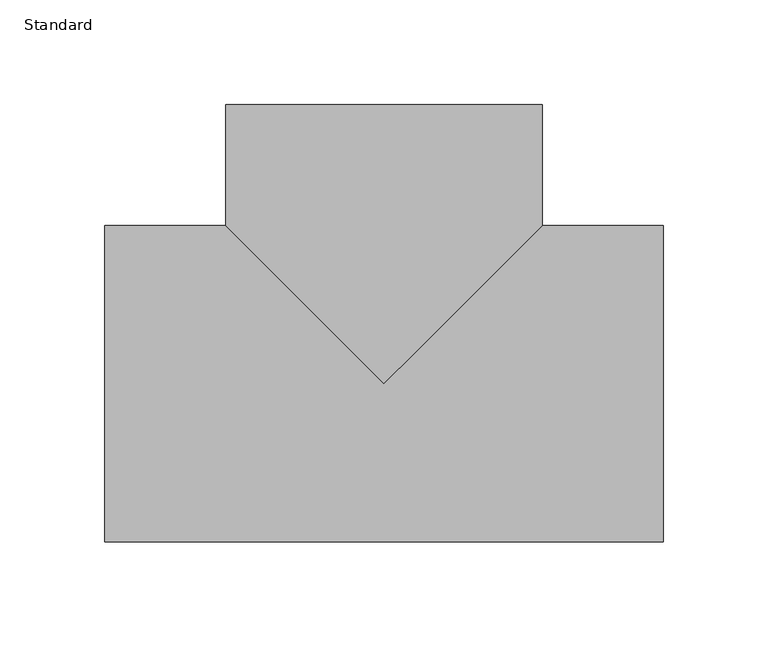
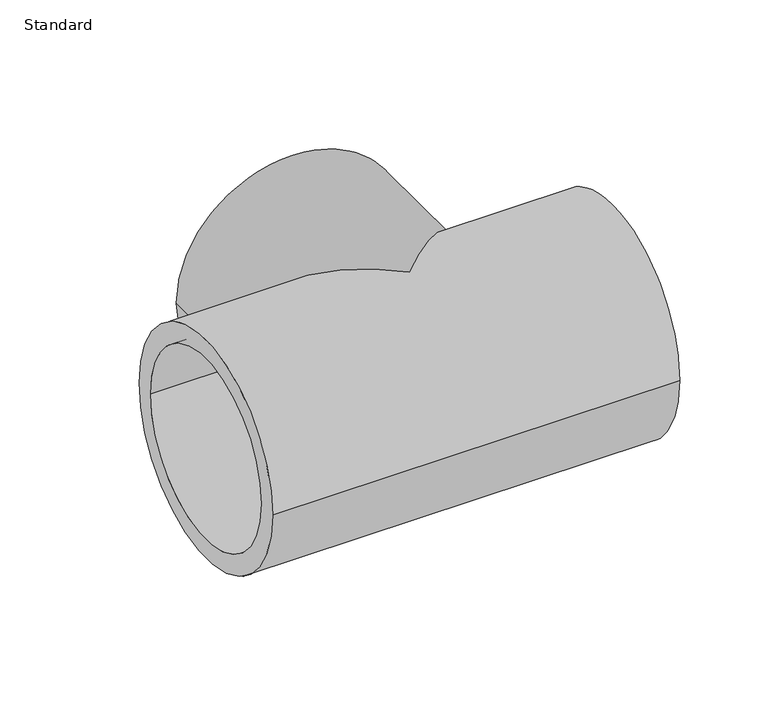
"""IFC4 building model written with IfcOpenShell, lengths in millimetres: pipe fitting geometry, Durapipe_PipeFitting_PVC_Tee90degEqual : Standard."""

from ifc_helpers import new_model, si_unit, frame, origin, place, context, project, spatial, polyline, circle_curve, ellipse_curve, source, transform, mapped, element, save
from ifc_brep_helpers import plane_surface, cylinder_surface, revolved_surface, advanced_brep


def standard_cb71c3b2(model_context):
    return source(origin(), model_context, "Body", "AdvancedBrep", [
        advanced_brep(
        [(-75.5, 133.0, 0.0), (75.5, 133.0, 0.0), (-62.5, 133.0, 0.0), (62.5, 133.0, 0.0), (-75.5, 75.5, 0.0), (0.0, 0.0, 75.5), (75.5, 75.5, 0.0), (0.0, 0.0, -75.5), (-133.0, -75.5, 0.0), (-133.0, 75.5, 0.0), (-133.0, -62.5, 0.0), (-133.0, 62.5, 0.0), (133.0, -75.5, 0.0), (133.0, 75.5, 0.0), (133.0, 62.5, 0.0), (133.0, -62.5, 0.0), (62.5, 64.0, 0.0), (-62.5, 64.0, 0.0), (0.0, 64.0, 0.0), (64.0, -62.5, 0.0), (64.0, 62.5, 0.0), (64.0, 0.0, 0.0), (-64.0, -62.5, 0.0), (-64.0, 62.5, 0.0), (-64.0, 0.0, 0.0)],
        [
            (0, 1, circle_curve(frame((0.0, 133.0, 0.0), z_axis=(0.0, 1.0, 0.0), x_axis=(1.0, 0.0, 0.0)), 75.5)),
            (1, 0, circle_curve(frame((0.0, 133.0, 0.0), z_axis=(0.0, 1.0, 0.0), x_axis=(1.0, 0.0, 0.0)), 75.5)),
            (2, 3, circle_curve(frame((0.0, 133.0, 0.0), z_axis=(0.0, -1.0, 0.0), x_axis=(-1.0, 0.0, 0.0)), 62.5)),
            (3, 2, circle_curve(frame((0.0, 133.0, 0.0), z_axis=(0.0, -1.0, 0.0), x_axis=(-1.0, 0.0, 0.0)), 62.5)),
            (0, 4),
            (4, 5, ellipse_curve(frame((0.0, 0.0, 0.0), z_axis=(0.7071067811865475, 0.7071067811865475, 0.0), x_axis=(-0.7071067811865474, 0.7071067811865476, 0.0)), 106.773124, 75.5)),
            (5, 6, ellipse_curve(frame((0.0, 0.0, 0.0), z_axis=(-0.7071067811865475, 0.7071067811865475, 0.0), x_axis=(0.7071067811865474, 0.7071067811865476, 0.0)), 106.773124, 75.5)),
            (6, 1),
            (6, 7, ellipse_curve(frame((0.0, 0.0, 0.0), z_axis=(-0.7071067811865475, 0.7071067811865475, 0.0), x_axis=(0.7071067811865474, 0.7071067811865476, 0.0)), 106.773124, 75.5)),
            (7, 4, ellipse_curve(frame((0.0, 0.0, 0.0), z_axis=(0.7071067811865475, 0.7071067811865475, 0.0), x_axis=(-0.7071067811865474, 0.7071067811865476, 0.0)), 106.773124, 75.5)),
            (8, 9, circle_curve(frame((-133.0, 0.0, 0.0), z_axis=(-1.0, 0.0, 0.0), x_axis=(0.0, 1.0, 0.0)), 75.5)),
            (9, 8, circle_curve(frame((-133.0, 0.0, 0.0), z_axis=(-1.0, 0.0, 0.0), x_axis=(0.0, 1.0, 0.0)), 75.5)),
            (10, 11, circle_curve(frame((-133.0, 0.0, 0.0), z_axis=(1.0, 0.0, 0.0), x_axis=(0.0, 1.0, 0.0)), 62.5)),
            (11, 10, circle_curve(frame((-133.0, 0.0, 0.0), z_axis=(1.0, 0.0, 0.0), x_axis=(0.0, 1.0, 0.0)), 62.5)),
            (12, 13, circle_curve(frame((133.0, 0.0, 0.0), z_axis=(1.0, 0.0, 0.0), x_axis=(0.0, 1.0, 0.0)), 75.5)),
            (13, 12, circle_curve(frame((133.0, 0.0, 0.0), z_axis=(1.0, 0.0, 0.0), x_axis=(0.0, 1.0, 0.0)), 75.5)),
            (14, 15, circle_curve(frame((133.0, 0.0, 0.0), z_axis=(-1.0, 0.0, 0.0), x_axis=(0.0, 1.0, 0.0)), 62.5)),
            (15, 14, circle_curve(frame((133.0, 0.0, 0.0), z_axis=(-1.0, 0.0, 0.0), x_axis=(0.0, 1.0, 0.0)), 62.5)),
            (8, 12),
            (13, 6),
            (4, 9),
            (16, 3),
            (2, 17),
            (17, 16, circle_curve(frame((0.0, 64.0, 0.0), z_axis=(0.0, -1.0, 0.0), x_axis=(-1.0, 0.0, 0.0)), 62.5)),
            (16, 17, circle_curve(frame((0.0, 64.0, 0.0), z_axis=(0.0, -1.0, 0.0), x_axis=(-1.0, 0.0, 0.0)), 62.5)),
            (17, 18),
            (18, 16),
            (19, 15),
            (14, 20),
            (20, 19, circle_curve(frame((64.0, 0.0, 0.0), z_axis=(-1.0, 0.0, 0.0), x_axis=(0.0, 1.0, 0.0)), 62.5)),
            (19, 20, circle_curve(frame((64.0, 0.0, 0.0), z_axis=(-1.0, 0.0, 0.0), x_axis=(0.0, 1.0, 0.0)), 62.5)),
            (20, 21),
            (21, 19),
            (10, 22),
            (22, 23, circle_curve(frame((-64.0, 0.0, 0.0), z_axis=(1.0, 0.0, 0.0), x_axis=(0.0, 1.0, 0.0)), 62.5)),
            (23, 11),
            (23, 22, circle_curve(frame((-64.0, 0.0, 0.0), z_axis=(1.0, 0.0, 0.0), x_axis=(0.0, 1.0, 0.0)), 62.5)),
            (22, 24),
            (24, 23),
        ],
        [
            plane_surface(frame((0.0, 133.0, 0.0), z_axis=(0.0, 1.0, 0.0), x_axis=(0.0, 0.0, 1.0))),
            cylinder_surface(frame((0.0, 133.0, 0.0), z_axis=(0.0, 1.0, 0.0), x_axis=(1.0, 0.0, 0.0)), 75.5),
            plane_surface(frame((-133.0, 0.0, 0.0), z_axis=(-1.0, 0.0, 0.0), x_axis=(0.0, 0.0, 1.0))),
            plane_surface(frame((133.0, 0.0, 0.0), z_axis=(1.0, 0.0, 0.0), x_axis=(0.0, 0.0, 1.0))),
            cylinder_surface(frame((-133.0, 0.0, 0.0), z_axis=(-1.0, 0.0, 0.0), x_axis=(0.0, 1.0, 0.0)), 75.5),
            revolved_surface(polyline([(-62.5, 64.0, 0.0), (-62.5, 133.0, 0.0)]), (0.0, 2108.0, 0.0), (0.0, -1.0, 0.0)),
            plane_surface(frame((0.0, 64.0, 0.0), z_axis=(0.0, 1.0, 0.0), x_axis=(-1.0, 0.0, 0.0))),
            revolved_surface(polyline([(64.0, 62.5, 0.0), (133.0, 62.5, 0.0)]), (2109.5, 0.0, 0.0), (-1.0, 0.0, 0.0)),
            plane_surface(frame((64.0, 0.0, 0.0), z_axis=(1.0, 0.0, 0.0), x_axis=(0.0, 1.0, 0.0))),
            revolved_surface(polyline([(-133.0, 62.5, 0.0), (-64.0, 62.5, 0.0)]), (2109.5, 0.0, 0.0), (-1.0, 0.0, 0.0)),
            plane_surface(frame((-64.0, 0.0, 0.0), z_axis=(-1.0, 0.0, 0.0), x_axis=(0.0, 1.0, 0.0))),
        ],
        [
            (0, [[1, 2], [3, 4]]),
            (1, [[-1, 5, 6, 7, 8]]),
            (1, [[-2, -8, 9, 10, -5]]),
            (2, [[11, 12], [13, 14]]),
            (3, [[15, 16], [17, 18]]),
            (4, [[-11, 19, -16, 20, -7, -6, 21]]),
            (4, [[-12, -21, -10, -9, -20, -15, -19]]),
            (5, [[22, -3, 23, 24]]),
            (5, [[-22, 25, -23, -4]]),
            (6, [[-24, 26, 27]]),
            (6, [[-25, -27, -26]]),
            (7, [[28, -17, 29, 30]]),
            (7, [[-28, 31, -29, -18]]),
            (8, [[-30, 32, 33]]),
            (8, [[-31, -33, -32]]),
            (9, [[34, 35, 36, -13]]),
            (9, [[-34, -14, -36, 37]]),
            (10, [[-35, 38, 39]]),
            (10, [[-37, -39, -38]]),
        ],
    ),
    ])


if __name__ == "__main__":
    model = new_model("IFC4")
    model_context = context("Model", 3, world=origin())
    ifc_project = project(units=[si_unit("LENGTHUNIT", "METRE", prefix="MILLI")], contexts=[model_context])
    site = spatial("IfcSite", under=ifc_project)
    building = spatial("IfcBuilding", under=site)
    placement = place(None, origin())
    standard_shape = standard_cb71c3b2(model_context)
    element("IfcPipeFitting", 1, ObjectType="Durapipe_PipeFitting_PVC_Tee90degEqual : Standard", at=placement, inside=building, context=model_context, shape_type="MappedRepresentation", body=[
        mapped(standard_shape, transform((0.0, 0.0, 0.0), x_axis=(1.0, 0.0, 0.0), y_axis=(0.0, 1.0, 0.0), z_axis=(0.0, 0.0, 1.0))),
    ])
    save(model, "model.ifc")
